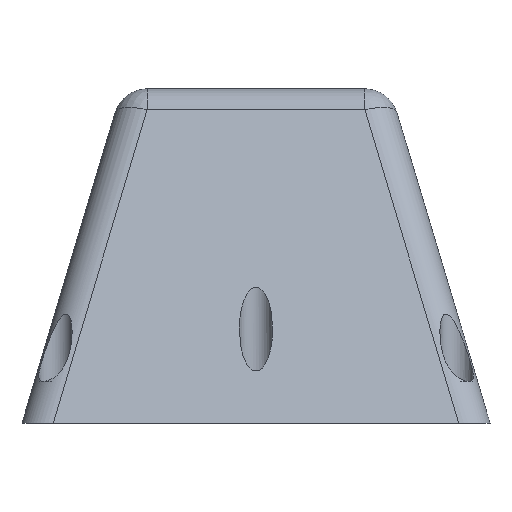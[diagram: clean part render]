
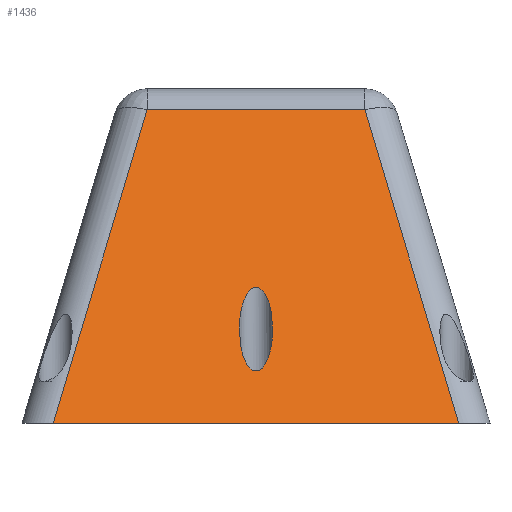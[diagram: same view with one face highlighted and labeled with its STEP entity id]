
A CAD part, front view. The second image highlights one B-rep face of the part: STEP entity #1436.
In plain terms, the highlighted planar face has unit normal (0, -0.928, 0.371).
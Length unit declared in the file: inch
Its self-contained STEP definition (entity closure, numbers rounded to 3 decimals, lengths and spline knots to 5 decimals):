
#88=CARTESIAN_POINT('',(6.06739,-6.,0.));
#118=CARTESIAN_POINT('',(-6.06739,-6.,0.));
#126=DIRECTION('',(1.,0.,0.));
#127=VECTOR('',#126,12.13477);
#128=CARTESIAN_POINT('',(-6.06739,-6.,0.));
#129=LINE('',#128,#127);
#532=CARTESIAN_POINT('',(0.5,-4.875,2.8125));
#533=CARTESIAN_POINT('',(0.5,-4.81607,2.95981));
#534=CARTESIAN_POINT('',(0.47867,-4.68878,3.27805));
#535=CARTESIAN_POINT('',(0.36403,-4.51087,3.72282));
#536=CARTESIAN_POINT('',(0.21613,-4.41549,3.96127));
#537=CARTESIAN_POINT('',(0.0903,-4.38026,4.04936));
#538=CARTESIAN_POINT('',(0.,-4.37237,4.06907));
#539=CARTESIAN_POINT('',(-0.0903,-4.38026,
4.04936));
#540=CARTESIAN_POINT('',(-0.21613,-4.41549,
3.96127));
#541=CARTESIAN_POINT('',(-0.36403,-4.51087,
3.72282));
#542=CARTESIAN_POINT('',(-0.47867,-4.68878,
3.27805));
#543=CARTESIAN_POINT('',(-0.5,-4.81607,2.95981));
#544=CARTESIAN_POINT('',(-0.5,-4.875,2.8125));
#546=CARTESIAN_POINT('',(-0.5,-4.875,2.8125));
#547=CARTESIAN_POINT('',(-0.5,-4.93393,2.66519));
#548=CARTESIAN_POINT('',(-0.47867,-5.06122,
2.34695));
#549=CARTESIAN_POINT('',(-0.36403,-5.23913,
1.90218));
#550=CARTESIAN_POINT('',(-0.21613,-5.33451,
1.66373));
#551=CARTESIAN_POINT('',(-0.0903,-5.36974,
1.57564));
#552=CARTESIAN_POINT('',(0.,-5.37763,1.55593));
#553=CARTESIAN_POINT('',(0.0903,-5.36974,1.57564));
#554=CARTESIAN_POINT('',(0.21613,-5.33451,1.66373));
#555=CARTESIAN_POINT('',(0.36403,-5.23913,1.90218));
#556=CARTESIAN_POINT('',(0.47867,-5.06122,2.34695));
#557=CARTESIAN_POINT('',(0.5,-4.93393,2.66519));
#558=CARTESIAN_POINT('',(0.5,-4.875,2.8125));
#560=DIRECTION('',(1.,0.,0.));
#561=VECTOR('',#560,6.51194);
#562=CARTESIAN_POINT('',(-3.25597,-2.25144,9.37139));
#563=LINE('',#562,#561);
#564=DIRECTION('',(0.268,-0.358,-0.894));
#565=VECTOR('',#564,10.47753);
#566=CARTESIAN_POINT('',(3.25597,-2.25144,9.37139));
#567=LINE('',#566,#565);
#568=DIRECTION('',(-0.268,-0.358,-0.894));
#569=VECTOR('',#568,10.47753);
#570=CARTESIAN_POINT('',(-3.25597,-2.25144,9.37139));
#571=LINE('',#570,#569);
#849=VERTEX_POINT('',#88);
#850=VERTEX_POINT('',#118);
#865=CARTESIAN_POINT('',(-3.25597,-2.25144,9.37139));
#867=VERTEX_POINT('',#865);
#872=CARTESIAN_POINT('',(3.25597,-2.25144,9.37139));
#873=VERTEX_POINT('',#872);
#906=VERTEX_POINT('',#532);
#907=VERTEX_POINT('',#544);
#1418=CARTESIAN_POINT('',(0.,-4.,5.));
#1419=DIRECTION('',(0.,0.928,-0.371));
#1420=DIRECTION('',(1.,0.,0.));
#1421=AXIS2_PLACEMENT_3D('',#1418,#1419,#1420);
#1422=PLANE('',#1421);
#1423=ORIENTED_EDGE('',*,*,#1271,.T.);
#1424=ORIENTED_EDGE('',*,*,#1300,.T.);
#1425=ORIENTED_EDGE('',*,*,#963,.F.);
#1427=ORIENTED_EDGE('',*,*,#1426,.F.);
#1428=EDGE_LOOP('',(#1423,#1424,#1425,#1427));
#1429=FACE_OUTER_BOUND('',#1428,.F.);
#1431=ORIENTED_EDGE('',*,*,#1430,.T.);
#1433=ORIENTED_EDGE('',*,*,#1432,.T.);
#1434=EDGE_LOOP('',(#1431,#1433));
#1435=FACE_BOUND('',#1434,.F.);
#1436=ADVANCED_FACE('',(#1429,#1435),#1422,.F.);
#545=B_SPLINE_CURVE_WITH_KNOTS('',3,(#532,#533,#534,#535,#536,#537,#538,#539,
#540,#541,#542,#543,#544),.UNSPECIFIED.,.F.,.F.,(4,1,1,1,1,1,1,1,1,1,4),(0.,
0.125,0.25,0.375,0.4375,0.5,0.5625,0.625,0.75,0.875,1.),
.UNSPECIFIED.);
#559=B_SPLINE_CURVE_WITH_KNOTS('',3,(#546,#547,#548,#549,#550,#551,#552,#553,
#554,#555,#556,#557,#558),.UNSPECIFIED.,.F.,.F.,(4,1,1,1,1,1,1,1,1,1,4),(0.,
0.125,0.25,0.375,0.4375,0.5,0.5625,0.625,0.75,0.875,1.),
.UNSPECIFIED.);
#963=EDGE_CURVE('',#850,#849,#129,.T.);
#1271=EDGE_CURVE('',#867,#873,#563,.T.);
#1300=EDGE_CURVE('',#873,#849,#567,.T.);
#1426=EDGE_CURVE('',#867,#850,#571,.T.);
#1430=EDGE_CURVE('',#906,#907,#545,.T.);
#1432=EDGE_CURVE('',#907,#906,#559,.T.);
